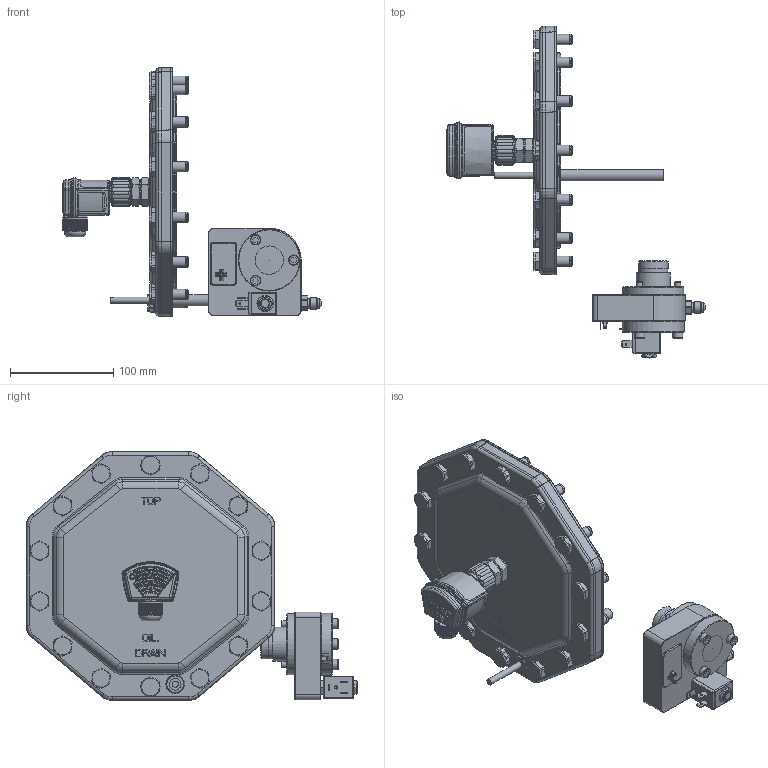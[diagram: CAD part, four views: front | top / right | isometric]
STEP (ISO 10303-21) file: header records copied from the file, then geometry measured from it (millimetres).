
FILE_DESCRIPTION(/* description */ (''),/* implementation_level */ '2;1');
FILE_NAME(/* name */ '4FSL-4ESL-4DSL-4CSL-OPTION.stp',/* time_stamp */ '2023-12-08T14:38:15+01:00',/* author */ (''),/* organization */ (''),/* preprocessor_version */ 'ST-DEVELOPER v19.3',/* originating_system */ 'SIEMENS PLM Software NX2212.3001',/* authorisation */ '');
FILE_SCHEMA (('AUTOMOTIVE_DESIGN { 1 0 10303 214 3 1 1 1 }'));
Products named in the file (5): OIL-LEVEL-MONITORING-OLM-IQ-2; BEARING-COVER-CE3-W-PRISM-UNIT; BEARING-OVER-2EC-4CC; CRANKCASE-HEATER-200-460V; 4FSL-4ESL-4DSL-4CSL-OPTION
Assembly tree (4 placements, depth 2):
  4FSL-4ESL-4DSL-4CSL-OPTION
    CRANKCASE-HEATER-200-460V
    BEARING-OVER-2EC-4CC
    BEARING-COVER-CE3-W-PRISM-UNIT
    OIL-LEVEL-MONITORING-OLM-IQ-2
Bounding box: 251.95 x 321.8 x 241.2 mm (x, y, z)
Volume: 2374739.6 mm3; surface area: 310040.2 mm2
Topology: 4 solids, 13 shells, 2743 faces, 6699 edges, 4058 vertices
Faces by surface type: plane 1183, cylinder 548, cone 370, bspline 331, torus 207, sphere 74, extrusion 30
Full cylindrical faces by diameter (mm): 1.5 x3, 1.8 x3, 2.5 x1, 5 x2, 6 x7, 6.5 x3, 7 x1, 7.8 x1, 8 x1, 8.5 x1, 9 x3, 10 x44, 11 x1, 11.113 x1, 12 x1, 12.2 x1, 13.4 x1, 16 x3, 17 x4, 17.5 x1, 18 x2, 20 x1, 21.25 x1, 21.8 x1, 22 x1, 23.9 x1, 24 x1, 25 x1, 28.5 x1, 28.575 x1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
Entity records: 111941 total; most frequent: CARTESIAN_POINT 33926, ORIENTED_EDGE 12630, DIRECTION 11790, EDGE_CURVE 6315, AXIS2_PLACEMENT_3D 4462, VERTEX_POINT 3953, EDGE_LOOP 3139, VECTOR 2866
